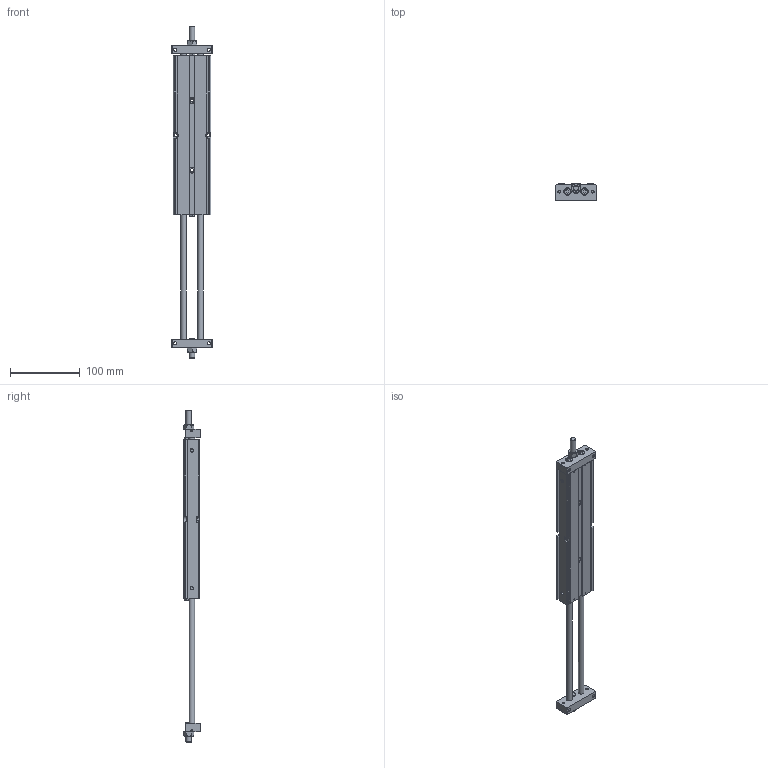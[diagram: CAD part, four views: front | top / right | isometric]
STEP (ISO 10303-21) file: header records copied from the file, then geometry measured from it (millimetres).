
FILE_DESCRIPTION((''),'2;1');
FILE_NAME('I:\3D電子目錄\氣缸\STU\STU\STU16\STU16x175.stp','2007-10-01T08:53:38',('Administrator'),(''),'Autodesk Inventor 11','Autodesk Inventor 11','');
FILE_SCHEMA(('AUTOMOTIVE_DESIGN { 1 0 10303 214 1 1 1 1 }'));
Length unit declared in the file: millimetre
Products named in the file (1): STU16
Bounding box: 58 x 24.51 x 477 mm (x, y, z)
Volume: 287340.4 mm3; surface area: 73611.5 mm2
Topology: 1 solids, 1 shells, 315 faces, 775 edges, 493 vertices
Faces by surface type: plane 161, cone 71, bspline 48, cylinder 35
Full cylindrical faces by diameter (mm): 2.459 x2, 8 x7, 8.5 x4, 9.5 x4, 18 x2, 19.2 x2
Entity records: 10033 total; most frequent: CARTESIAN_POINT 3278, ORIENTED_EDGE 1350, DIRECTION 1290, EDGE_CURVE 675, VERTEX_POINT 475, EDGE_LOOP 474, AXIS2_PLACEMENT_3D 473, VECTOR 344
